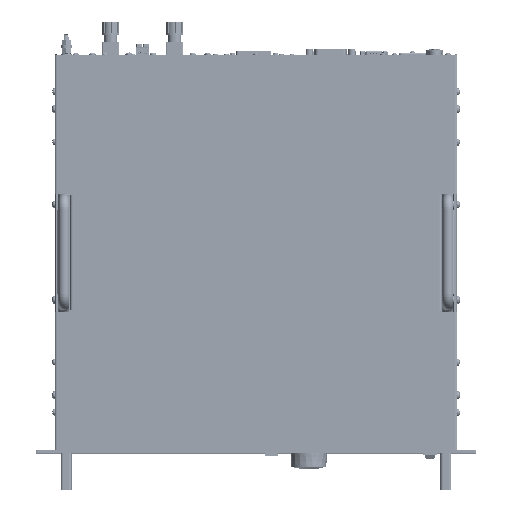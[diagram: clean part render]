
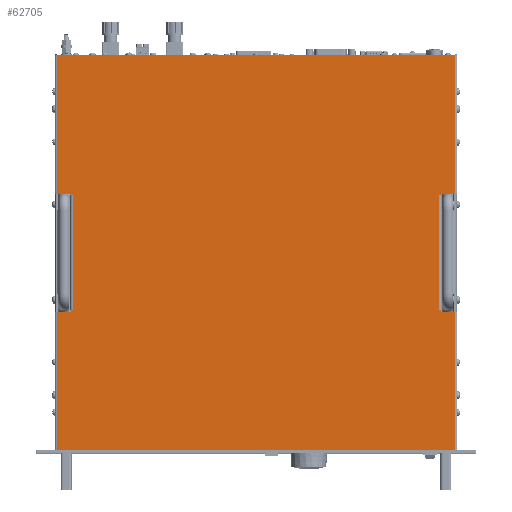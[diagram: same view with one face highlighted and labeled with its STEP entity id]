
A CAD part, top view. The second image highlights one B-rep face of the part: STEP entity #62705.
In plain terms, the highlighted planar face has unit normal (0, 0, 1).
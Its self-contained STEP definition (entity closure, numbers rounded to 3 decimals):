
#62705=ADVANCED_FACE('',(#129434),#129435,.F.);
#129434=FACE_OUTER_BOUND('',#232863,.T.);
#129435=PLANE('',#232864);
#232863=EDGE_LOOP('',(#408275,#408276,#408277,#408278,#408279,#408280,#408281,#408282,#408283,#408284,#408285,#408286,#408287,#408288,#408289,#408290,#408291,#408292,#408293,#408294));
#232864=AXIS2_PLACEMENT_3D('',#408295,#408296,#408297);
#408275=ORIENTED_EDGE('',*,*,#502472,.T.);
#408276=ORIENTED_EDGE('',*,*,#502492,.F.);
#408277=ORIENTED_EDGE('',*,*,#502493,.F.);
#408278=ORIENTED_EDGE('',*,*,#502136,.F.);
#408279=ORIENTED_EDGE('',*,*,#502458,.F.);
#408280=ORIENTED_EDGE('',*,*,#502121,.F.);
#408281=ORIENTED_EDGE('',*,*,#502447,.F.);
#408282=ORIENTED_EDGE('',*,*,#502494,.F.);
#408283=ORIENTED_EDGE('',*,*,#502490,.T.);
#408284=ORIENTED_EDGE('',*,*,#502485,.F.);
#408285=ORIENTED_EDGE('',*,*,#502482,.T.);
#408286=ORIENTED_EDGE('',*,*,#502495,.F.);
#408287=ORIENTED_EDGE('',*,*,#502423,.F.);
#408288=ORIENTED_EDGE('',*,*,#502111,.F.);
#408289=ORIENTED_EDGE('',*,*,#502412,.F.);
#408290=ORIENTED_EDGE('',*,*,#502131,.F.);
#408291=ORIENTED_EDGE('',*,*,#502496,.F.);
#408292=ORIENTED_EDGE('',*,*,#502497,.F.);
#408293=ORIENTED_EDGE('',*,*,#502469,.T.);
#408294=ORIENTED_EDGE('',*,*,#502477,.T.);
#408295=CARTESIAN_POINT('',(239.8,220.125,86.465));
#408296=DIRECTION('',(0.,0.,-1.0));
#408297=DIRECTION('',(1.0,0.,0.));
#502111=EDGE_CURVE('',#608015,#608017,#608018,.T.);
#502121=EDGE_CURVE('',#608033,#608035,#608036,.T.);
#502131=EDGE_CURVE('',#608051,#608053,#608054,.T.);
#502136=EDGE_CURVE('',#608060,#608062,#608063,.T.);
#502412=EDGE_CURVE('',#608053,#608015,#608493,.T.);
#502423=EDGE_CURVE('',#608017,#608508,#608509,.T.);
#502447=EDGE_CURVE('',#608541,#608033,#608543,.T.);
#502458=EDGE_CURVE('',#608035,#608060,#608558,.T.);
#502469=EDGE_CURVE('',#608569,#608572,#608574,.T.);
#502472=EDGE_CURVE('',#608579,#608576,#608580,.T.);
#502477=EDGE_CURVE('',#608572,#608579,#608585,.T.);
#502482=EDGE_CURVE('',#608591,#608589,#608592,.T.);
#502485=EDGE_CURVE('',#608591,#608595,#608596,.T.);
#502490=EDGE_CURVE('',#608601,#608595,#608603,.T.);
#502492=EDGE_CURVE('',#608605,#608576,#608606,.T.);
#502493=EDGE_CURVE('',#608062,#608605,#608607,.T.);
#502494=EDGE_CURVE('',#608601,#608541,#608608,.T.);
#502495=EDGE_CURVE('',#608508,#608589,#608609,.T.);
#502496=EDGE_CURVE('',#608610,#608051,#608611,.T.);
#502497=EDGE_CURVE('',#608569,#608610,#608612,.T.);
#608015=VERTEX_POINT('',#758365);
#608017=VERTEX_POINT('',#758367);
#608018=LINE('',#758368,#758369);
#608033=VERTEX_POINT('',#758387);
#608035=VERTEX_POINT('',#758389);
#608036=LINE('',#758390,#758391);
#608051=VERTEX_POINT('',#758409);
#608053=VERTEX_POINT('',#758411);
#608054=LINE('',#758412,#758413);
#608060=VERTEX_POINT('',#758420);
#608062=VERTEX_POINT('',#758422);
#608063=LINE('',#758423,#758424);
#608493=LINE('',#758975,#758976);
#608508=VERTEX_POINT('',#758996);
#608509=LINE('',#758997,#758998);
#608541=VERTEX_POINT('',#759044);
#608543=LINE('',#759047,#759048);
#608558=LINE('',#759068,#759069);
#608569=VERTEX_POINT('',#759084);
#608572=VERTEX_POINT('',#759088);
#608574=LINE('',#759090,#759091);
#608576=VERTEX_POINT('',#759093);
#608579=VERTEX_POINT('',#759097);
#608580=LINE('',#759098,#759099);
#608585=LINE('',#759104,#759105);
#608589=VERTEX_POINT('',#759110);
#608591=VERTEX_POINT('',#759113);
#608592=LINE('',#759114,#759115);
#608595=VERTEX_POINT('',#759118);
#608596=LINE('',#759119,#759120);
#608601=VERTEX_POINT('',#759125);
#608603=LINE('',#759128,#759129);
#608605=VERTEX_POINT('',#759131);
#608606=LINE('',#759132,#759133);
#608607=LINE('',#759134,#759135);
#608608=LINE('',#759136,#759137);
#608609=LINE('',#759138,#759139);
#608610=VERTEX_POINT('',#759140);
#608611=LINE('',#759141,#759142);
#608612=LINE('',#759143,#759144);
#758365=CARTESIAN_POINT('',(22.123,3.5,86.465));
#758367=CARTESIAN_POINT('',(22.123,155.5,86.465));
#758368=CARTESIAN_POINT('',(22.123,149.813,86.465));
#758369=VECTOR('',#861445,1.0);
#758387=CARTESIAN_POINT('',(22.123,284.75,86.465));
#758389=CARTESIAN_POINT('',(22.123,436.75,86.465));
#758390=CARTESIAN_POINT('',(22.123,290.438,86.465));
#758391=VECTOR('',#861461,1.0);
#758409=CARTESIAN_POINT('',(457.477,155.5,86.465));
#758411=CARTESIAN_POINT('',(457.477,3.5,86.465));
#758412=CARTESIAN_POINT('',(457.477,149.813,86.465));
#758413=VECTOR('',#861477,1.0);
#758420=CARTESIAN_POINT('',(457.477,436.75,86.465));
#758422=CARTESIAN_POINT('',(457.477,284.75,86.465));
#758423=CARTESIAN_POINT('',(457.477,290.438,86.465));
#758424=VECTOR('',#861485,1.0);
#758975=CARTESIAN_POINT('',(460.227,3.5,86.465));
#758976=VECTOR('',#861871,1.0);
#758996=CARTESIAN_POINT('',(37.373,155.5,86.465));
#758997=CARTESIAN_POINT('',(19.373,155.5,86.465));
#758998=VECTOR('',#861889,1.0);
#759044=CARTESIAN_POINT('',(37.373,284.75,86.465));
#759047=CARTESIAN_POINT('',(37.373,284.75,86.465));
#759048=VECTOR('',#861917,1.0);
#759068=CARTESIAN_POINT('',(19.373,436.75,86.465));
#759069=VECTOR('',#861935,1.0);
#759084=CARTESIAN_POINT('',(442.227,157.5,86.465));
#759088=CARTESIAN_POINT('',(440.477,157.5,86.465));
#759090=CARTESIAN_POINT('',(341.093,157.5,86.465));
#759091=VECTOR('',#861947,1.0);
#759093=CARTESIAN_POINT('',(442.227,282.75,86.465));
#759097=CARTESIAN_POINT('',(440.477,282.75,86.465));
#759098=CARTESIAN_POINT('',(341.093,282.75,86.465));
#759099=VECTOR('',#861949,1.0);
#759104=CARTESIAN_POINT('',(440.477,220.125,86.465));
#759105=VECTOR('',#861959,1.0);
#759110=CARTESIAN_POINT('',(37.373,157.5,86.465));
#759113=CARTESIAN_POINT('',(39.123,157.5,86.465));
#759114=CARTESIAN_POINT('',(138.507,157.5,86.465));
#759115=VECTOR('',#861962,1.0);
#759118=CARTESIAN_POINT('',(39.123,282.75,86.465));
#759119=CARTESIAN_POINT('',(39.123,220.125,86.465));
#759120=VECTOR('',#861966,1.0);
#759125=CARTESIAN_POINT('',(37.373,282.75,86.465));
#759128=CARTESIAN_POINT('',(138.507,282.75,86.465));
#759129=VECTOR('',#861974,1.0);
#759131=CARTESIAN_POINT('',(442.227,284.75,86.465));
#759132=CARTESIAN_POINT('',(442.227,284.75,86.465));
#759133=VECTOR('',#861975,1.0);
#759134=CARTESIAN_POINT('',(460.227,284.75,86.465));
#759135=VECTOR('',#861976,1.0);
#759136=CARTESIAN_POINT('',(37.373,282.75,86.465));
#759137=VECTOR('',#861977,1.0);
#759138=CARTESIAN_POINT('',(37.373,155.5,86.465));
#759139=VECTOR('',#861978,1.0);
#759140=CARTESIAN_POINT('',(442.227,155.5,86.465));
#759141=CARTESIAN_POINT('',(442.227,155.5,86.465));
#759142=VECTOR('',#861979,1.0);
#759143=CARTESIAN_POINT('',(442.227,157.5,86.465));
#759144=VECTOR('',#861980,1.0);
#861445=DIRECTION('',(0.0,1.0,0.));
#861461=DIRECTION('',(0.0,1.0,0.));
#861477=DIRECTION('',(0.0,-1.0,0.));
#861485=DIRECTION('',(0.0,-1.0,0.));
#861871=DIRECTION('',(-1.0,0.0,0.));
#861889=DIRECTION('',(1.0,0.0,0.0));
#861917=DIRECTION('',(-1.0,0.0,0.0));
#861935=DIRECTION('',(1.0,0.0,0.0));
#861947=DIRECTION('',(-1.0,0.0,0.0));
#861949=DIRECTION('',(1.0,0.0,0.0));
#861959=DIRECTION('',(0.0,1.0,0.));
#861962=DIRECTION('',(-1.0,0.0,0.0));
#861966=DIRECTION('',(0.0,1.0,0.));
#861974=DIRECTION('',(1.0,0.0,0.0));
#861975=DIRECTION('',(0.0,-1.0,0.));
#861976=DIRECTION('',(-1.0,0.0,0.0));
#861977=DIRECTION('',(0.0,1.0,0.));
#861978=DIRECTION('',(0.0,1.0,0.));
#861979=DIRECTION('',(1.0,0.0,0.0));
#861980=DIRECTION('',(0.0,-1.0,0.));
